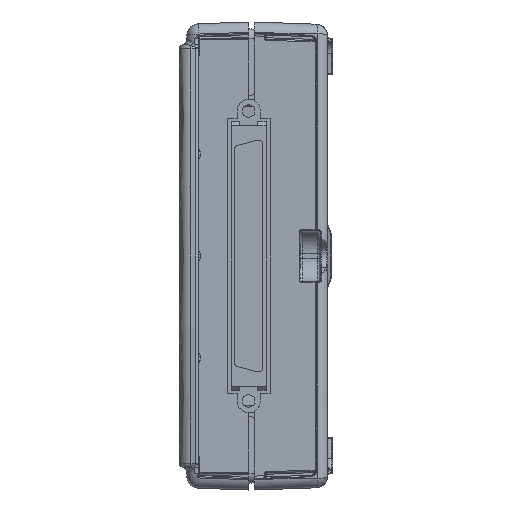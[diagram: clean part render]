
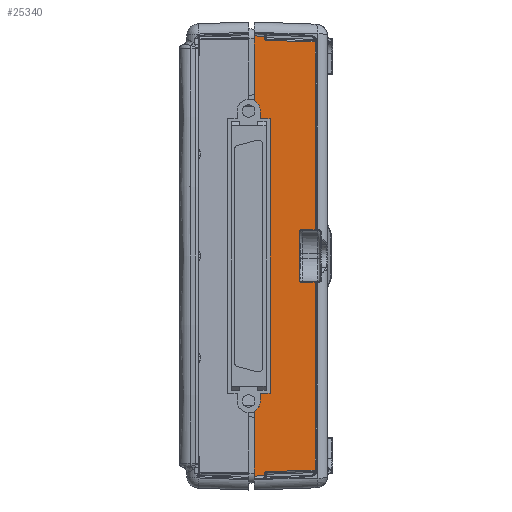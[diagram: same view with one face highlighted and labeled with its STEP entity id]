
A CAD part, left-side view. The second image highlights one B-rep face of the part: STEP entity #25340.
In plain terms, the highlighted planar face has unit normal (-1, 0, 0).
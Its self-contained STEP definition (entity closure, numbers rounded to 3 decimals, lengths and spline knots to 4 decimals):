
#504=DIRECTION('',(0.,0.,-1.));
#505=VECTOR('',#504,0.5093);
#506=CARTESIAN_POINT('',(-3.4265,0.579,-1.2207));
#507=LINE('',#506,#505);
#577=CARTESIAN_POINT('',(-3.4265,0.205,0.2075));
#578=CARTESIAN_POINT('',(-3.4265,0.2117,0.2075));
#579=CARTESIAN_POINT('',(-3.4265,0.22,0.2025));
#580=CARTESIAN_POINT('',(-3.4265,0.225,0.1942));
#581=CARTESIAN_POINT('',(-3.4265,0.225,0.1875));
#583=CARTESIAN_POINT('',(-3.4265,0.225,-0.1875));
#584=CARTESIAN_POINT('',(-3.4265,0.225,-0.1942));
#585=CARTESIAN_POINT('',(-3.4265,0.22,-0.2025));
#586=CARTESIAN_POINT('',(-3.4265,0.2117,-0.2075));
#587=CARTESIAN_POINT('',(-3.4265,0.205,-0.2075));
#589=DIRECTION('',(0.,-1.,0.));
#590=VECTOR('',#589,0.1055);
#591=CARTESIAN_POINT('',(-3.4265,0.205,
-0.2075));
#592=LINE('',#591,#590);
#593=DIRECTION('',(0.,0.999,-0.035));
#594=VECTOR('',#593,0.3816);
#595=CARTESIAN_POINT('',(-3.4265,0.0995,
-1.6824));
#596=LINE('',#595,#594);
#597=CARTESIAN_POINT('',(-3.4265,0.4809,
-1.6957));
#598=CARTESIAN_POINT('',(-3.4265,0.4836,
-1.6958));
#599=CARTESIAN_POINT('',(-3.4265,0.4885,
-1.697));
#600=CARTESIAN_POINT('',(-3.4265,0.4949,
-1.7014));
#601=CARTESIAN_POINT('',(-3.4265,0.4991,
-1.708));
#602=CARTESIAN_POINT('',(-3.4265,0.5002,
-1.713));
#603=CARTESIAN_POINT('',(-3.4265,0.5002,
-1.7157));
#605=DIRECTION('',(0.,0.999,-0.035));
#606=VECTOR('',#605,0.0789);
#607=CARTESIAN_POINT('',(-3.4265,0.5002,
-1.7272));
#608=LINE('',#607,#606);
#609=CARTESIAN_POINT('',(-3.4265,0.621,-1.14));
#610=DIRECTION('',(-1.,0.,0.));
#611=DIRECTION('',(0.,-0.462,-0.887));
#612=AXIS2_PLACEMENT_3D('',#609,#610,#611);
#614=CARTESIAN_POINT('',(-3.4265,0.621,1.14));
#615=DIRECTION('',(-1.,0.,0.));
#616=DIRECTION('',(0.,-1.,0.));
#617=AXIS2_PLACEMENT_3D('',#614,#615,#616);
#619=DIRECTION('',(0.,-0.999,-0.035));
#620=VECTOR('',#619,0.0789);
#621=CARTESIAN_POINT('',(-3.4265,0.579,1.73));
#622=LINE('',#621,#620);
#623=CARTESIAN_POINT('',(-3.4265,0.5002,1.7157));
#624=CARTESIAN_POINT('',(-3.4265,0.5002,1.713));
#625=CARTESIAN_POINT('',(-3.4265,0.4991,1.708));
#626=CARTESIAN_POINT('',(-3.4265,0.4949,1.7014));
#627=CARTESIAN_POINT('',(-3.4265,0.4885,1.697));
#628=CARTESIAN_POINT('',(-3.4265,0.4836,1.6958));
#629=CARTESIAN_POINT('',(-3.4265,0.4809,1.6957));
#631=DIRECTION('',(0.,-0.999,-0.035));
#632=VECTOR('',#631,0.3816);
#633=CARTESIAN_POINT('',(-3.4265,0.4809,1.6957));
#634=LINE('',#633,#632);
#635=DIRECTION('',(0.,0.,1.));
#636=VECTOR('',#635,1.4749);
#637=CARTESIAN_POINT('',(-3.4265,0.0995,0.2075));
#638=LINE('',#637,#636);
#774=DIRECTION('',(0.,0.,1.));
#775=VECTOR('',#774,0.0116);
#776=CARTESIAN_POINT('',(-3.4265,0.5002,1.7157));
#777=LINE('',#776,#775);
#831=DIRECTION('',(0.,0.,-1.));
#832=VECTOR('',#831,0.5093);
#833=CARTESIAN_POINT('',(-3.4265,0.579,1.73));
#834=LINE('',#833,#832);
#980=DIRECTION('',(0.,0.,-1.));
#981=VECTOR('',#980,0.06);
#982=CARTESIAN_POINT('',(-3.4265,0.53,1.14));
#983=LINE('',#982,#981);
#2780=DIRECTION('',(0.,0.,-1.));
#2781=VECTOR('',#2780,0.06);
#2782=CARTESIAN_POINT('',(-3.4265,0.53,-1.08));
#2783=LINE('',#2782,#2781);
#6597=DIRECTION('',(0.,0.,1.));
#6598=VECTOR('',#6597,0.0116);
#6599=CARTESIAN_POINT('',(-3.4265,0.5002,
-1.7272));
#6600=LINE('',#6599,#6598);
#6748=DIRECTION('',(0.,0.,1.));
#6749=VECTOR('',#6748,1.4749);
#6750=CARTESIAN_POINT('',(-3.4265,0.0995,
-1.6824));
#6751=LINE('',#6750,#6749);
#6793=DIRECTION('',(0.,0.,1.));
#6794=VECTOR('',#6793,0.375);
#6795=CARTESIAN_POINT('',(-3.4265,0.225,
-0.1875));
#6796=LINE('',#6795,#6794);
#6811=DIRECTION('',(0.,-1.,0.));
#6812=VECTOR('',#6811,0.1055);
#6813=CARTESIAN_POINT('',(-3.4265,0.205,
0.2075));
#6814=LINE('',#6813,#6812);
#19388=DIRECTION('',(0.,1.,0.));
#19389=VECTOR('',#19388,0.0775);
#19390=CARTESIAN_POINT('',(-3.4265,0.4525,-1.08));
#19391=LINE('',#19390,#19389);
#19409=DIRECTION('',(0.,0.,-1.));
#19410=VECTOR('',#19409,2.16);
#19411=CARTESIAN_POINT('',(-3.4265,0.4525,1.08));
#19412=LINE('',#19411,#19410);
#19425=DIRECTION('',(0.,-1.,0.));
#19426=VECTOR('',#19425,0.0775);
#19427=CARTESIAN_POINT('',(-3.4265,0.53,1.08));
#19428=LINE('',#19427,#19426);
#20456=CARTESIAN_POINT('',(-3.4265,0.579,-1.2207));
#20457=CARTESIAN_POINT('',(-3.4265,0.579,-1.73));
#20458=VERTEX_POINT('',#20456);
#20459=VERTEX_POINT('',#20457);
#20475=CARTESIAN_POINT('',(-3.4265,0.0995,0.2075));
#20476=CARTESIAN_POINT('',(-3.4265,0.0995,
1.6824));
#20477=VERTEX_POINT('',#20475);
#20478=VERTEX_POINT('',#20476);
#20479=CARTESIAN_POINT('',(-3.4265,0.205,
0.2075));
#20480=VERTEX_POINT('',#20479);
#20481=VERTEX_POINT('',#581);
#20482=CARTESIAN_POINT('',(-3.4265,0.225,
-0.1875));
#20483=VERTEX_POINT('',#20482);
#20484=VERTEX_POINT('',#587);
#20485=CARTESIAN_POINT('',(-3.4265,0.0995,-0.2075));
#20486=VERTEX_POINT('',#20485);
#20487=CARTESIAN_POINT('',(-3.4265,0.0995,
-1.6824));
#20488=VERTEX_POINT('',#20487);
#20489=CARTESIAN_POINT('',(-3.4265,0.4809,
-1.6957));
#20490=VERTEX_POINT('',#20489);
#20491=VERTEX_POINT('',#603);
#20492=CARTESIAN_POINT('',(-3.4265,0.5002,
-1.7272));
#20493=VERTEX_POINT('',#20492);
#20494=CARTESIAN_POINT('',(-3.4265,0.53,-1.14));
#20495=VERTEX_POINT('',#20494);
#20496=CARTESIAN_POINT('',(-3.4265,0.53,-1.08));
#20497=VERTEX_POINT('',#20496);
#20498=CARTESIAN_POINT('',(-3.4265,0.4525,-1.08));
#20499=VERTEX_POINT('',#20498);
#20500=CARTESIAN_POINT('',(-3.4265,0.4525,1.08));
#20501=VERTEX_POINT('',#20500);
#20502=CARTESIAN_POINT('',(-3.4265,0.53,1.08));
#20503=VERTEX_POINT('',#20502);
#20504=CARTESIAN_POINT('',(-3.4265,0.53,1.14));
#20505=VERTEX_POINT('',#20504);
#20506=CARTESIAN_POINT('',(-3.4265,0.579,1.2207));
#20507=VERTEX_POINT('',#20506);
#20508=CARTESIAN_POINT('',(-3.4265,0.579,1.73));
#20509=VERTEX_POINT('',#20508);
#20510=CARTESIAN_POINT('',(-3.4265,0.5002,
1.7272));
#20511=VERTEX_POINT('',#20510);
#20512=CARTESIAN_POINT('',(-3.4265,0.5002,
1.7157));
#20513=VERTEX_POINT('',#20512);
#20514=VERTEX_POINT('',#629);
#25286=CARTESIAN_POINT('',(-3.4265,0.53,-1.75));
#25287=DIRECTION('',(-1.,0.,0.));
#25288=DIRECTION('',(0.,0.,1.));
#25289=AXIS2_PLACEMENT_3D('',#25286,#25287,#25288);
#25290=PLANE('',#25289);
#25292=ORIENTED_EDGE('',*,*,#25291,.F.);
#25294=ORIENTED_EDGE('',*,*,#25293,.F.);
#25296=ORIENTED_EDGE('',*,*,#25295,.T.);
#25298=ORIENTED_EDGE('',*,*,#25297,.F.);
#25300=ORIENTED_EDGE('',*,*,#25299,.T.);
#25302=ORIENTED_EDGE('',*,*,#25301,.T.);
#25304=ORIENTED_EDGE('',*,*,#25303,.F.);
#25306=ORIENTED_EDGE('',*,*,#25305,.T.);
#25308=ORIENTED_EDGE('',*,*,#25307,.T.);
#25310=ORIENTED_EDGE('',*,*,#25309,.F.);
#25312=ORIENTED_EDGE('',*,*,#25311,.T.);
#25313=ORIENTED_EDGE('',*,*,#25256,.F.);
#25315=ORIENTED_EDGE('',*,*,#25314,.T.);
#25317=ORIENTED_EDGE('',*,*,#25316,.F.);
#25319=ORIENTED_EDGE('',*,*,#25318,.F.);
#25321=ORIENTED_EDGE('',*,*,#25320,.F.);
#25323=ORIENTED_EDGE('',*,*,#25322,.F.);
#25325=ORIENTED_EDGE('',*,*,#25324,.F.);
#25327=ORIENTED_EDGE('',*,*,#25326,.T.);
#25329=ORIENTED_EDGE('',*,*,#25328,.F.);
#25331=ORIENTED_EDGE('',*,*,#25330,.T.);
#25333=ORIENTED_EDGE('',*,*,#25332,.F.);
#25335=ORIENTED_EDGE('',*,*,#25334,.T.);
#25337=ORIENTED_EDGE('',*,*,#25336,.T.);
#25338=EDGE_LOOP('',(#25292,#25294,#25296,#25298,#25300,#25302,#25304,#25306,
#25308,#25310,#25312,#25313,#25315,#25317,#25319,#25321,#25323,#25325,#25327,
#25329,#25331,#25333,#25335,#25337));
#25339=FACE_OUTER_BOUND('',#25338,.F.);
#25340=ADVANCED_FACE('',(#25339),#25290,.T.);
#582=B_SPLINE_CURVE_WITH_KNOTS('',3,(#577,#578,#579,#580,#581),.UNSPECIFIED.,
.F.,.F.,(4,1,4),(0.,0.5,1.),.UNSPECIFIED.);
#588=B_SPLINE_CURVE_WITH_KNOTS('',3,(#583,#584,#585,#586,#587),.UNSPECIFIED.,
.F.,.F.,(4,1,4),(0.,0.5,1.),.UNSPECIFIED.);
#604=B_SPLINE_CURVE_WITH_KNOTS('',3,(#597,#598,#599,#600,#601,#602,#603),
.UNSPECIFIED.,.F.,.F.,(4,1,1,1,4),(0.,0.25,0.5,0.75,1.),
.UNSPECIFIED.);
#613=CIRCLE('',#612,0.091);
#618=CIRCLE('',#617,0.091);
#630=B_SPLINE_CURVE_WITH_KNOTS('',3,(#623,#624,#625,#626,#627,#628,#629),
.UNSPECIFIED.,.F.,.F.,(4,1,1,1,4),(0.,0.25,0.5,0.75,1.),
.UNSPECIFIED.);
#25256=EDGE_CURVE('',#20458,#20459,#507,.T.);
#25291=EDGE_CURVE('',#20477,#20478,#638,.T.);
#25293=EDGE_CURVE('',#20480,#20477,#6814,.T.);
#25295=EDGE_CURVE('',#20480,#20481,#582,.T.);
#25297=EDGE_CURVE('',#20483,#20481,#6796,.T.);
#25299=EDGE_CURVE('',#20483,#20484,#588,.T.);
#25301=EDGE_CURVE('',#20484,#20486,#592,.T.);
#25303=EDGE_CURVE('',#20488,#20486,#6751,.T.);
#25305=EDGE_CURVE('',#20488,#20490,#596,.T.);
#25307=EDGE_CURVE('',#20490,#20491,#604,.T.);
#25309=EDGE_CURVE('',#20493,#20491,#6600,.T.);
#25311=EDGE_CURVE('',#20493,#20459,#608,.T.);
#25314=EDGE_CURVE('',#20458,#20495,#613,.T.);
#25316=EDGE_CURVE('',#20497,#20495,#2783,.T.);
#25318=EDGE_CURVE('',#20499,#20497,#19391,.T.);
#25320=EDGE_CURVE('',#20501,#20499,#19412,.T.);
#25322=EDGE_CURVE('',#20503,#20501,#19428,.T.);
#25324=EDGE_CURVE('',#20505,#20503,#983,.T.);
#25326=EDGE_CURVE('',#20505,#20507,#618,.T.);
#25328=EDGE_CURVE('',#20509,#20507,#834,.T.);
#25330=EDGE_CURVE('',#20509,#20511,#622,.T.);
#25332=EDGE_CURVE('',#20513,#20511,#777,.T.);
#25334=EDGE_CURVE('',#20513,#20514,#630,.T.);
#25336=EDGE_CURVE('',#20514,#20478,#634,.T.);
